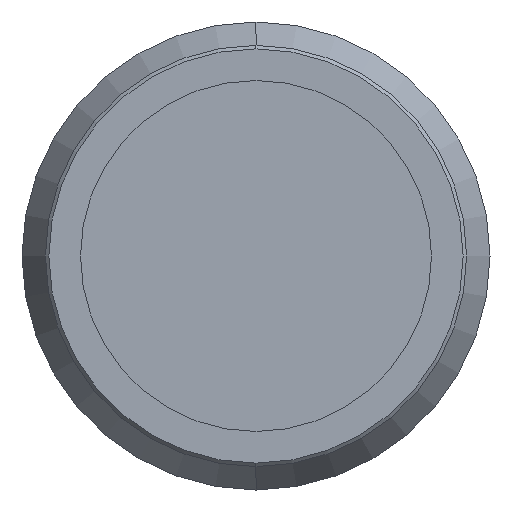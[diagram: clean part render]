
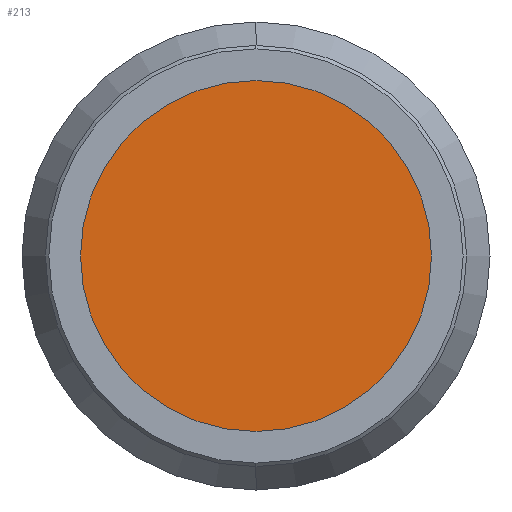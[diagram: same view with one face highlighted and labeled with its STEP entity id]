
A CAD part, left-side view. The second image highlights one B-rep face of the part: STEP entity #213.
In plain terms, the highlighted planar face has unit normal (-1, 0, 0).
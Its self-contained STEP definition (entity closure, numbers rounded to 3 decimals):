
#27 = DIRECTION ( 'NONE',  ( 0., 0., 1. ) ) ;
#31 = DIRECTION ( 'NONE',  ( -1., 0., 0. ) ) ;
#60 = AXIS2_PLACEMENT_3D ( 'NONE', #948, #548, #701 ) ;
#77 = VERTEX_POINT ( 'NONE', #532 ) ;
#78 = CARTESIAN_POINT ( 'NONE',  ( 2., 0., 0. ) ) ;
#107 = EDGE_CURVE ( 'NONE', #172, #77, #983, .T. ) ;
#148 = DIRECTION ( 'NONE',  ( 0., 0., 1. ) ) ;
#163 = CARTESIAN_POINT ( 'NONE',  ( 2., 0., 15. ) ) ;
#172 = VERTEX_POINT ( 'NONE', #163 ) ;
#185 = EDGE_CURVE ( 'NONE', #77, #172, #972, .T. ) ;
#213 = ADVANCED_FACE ( 'NONE', ( #811 ), #253, .T. ) ;
#236 = DIRECTION ( 'NONE',  ( -1., 0., 0. ) ) ;
#253 = PLANE ( 'NONE',  #60 ) ;
#424 = AXIS2_PLACEMENT_3D ( 'NONE', #868, #31, #27 ) ;
#532 = CARTESIAN_POINT ( 'NONE',  ( 2., 0., -15. ) ) ;
#548 = DIRECTION ( 'NONE',  ( -1., 0., 0. ) ) ;
#673 = ORIENTED_EDGE ( 'NONE', *, *, #185, .T. ) ;
#701 = DIRECTION ( 'NONE',  ( 0., 0., 1. ) ) ;
#733 = EDGE_LOOP ( 'NONE', ( #853, #673 ) ) ;
#756 = AXIS2_PLACEMENT_3D ( 'NONE', #78, #236, #148 ) ;
#811 = FACE_OUTER_BOUND ( 'NONE', #733, .T. ) ;
#853 = ORIENTED_EDGE ( 'NONE', *, *, #107, .T. ) ;
#868 = CARTESIAN_POINT ( 'NONE',  ( 2., 0., 0. ) ) ;
#948 = CARTESIAN_POINT ( 'NONE',  ( 2., 0., 0. ) ) ;
#972 = CIRCLE ( 'NONE', #424, 15. ) ;
#983 = CIRCLE ( 'NONE', #756, 15. ) ;
